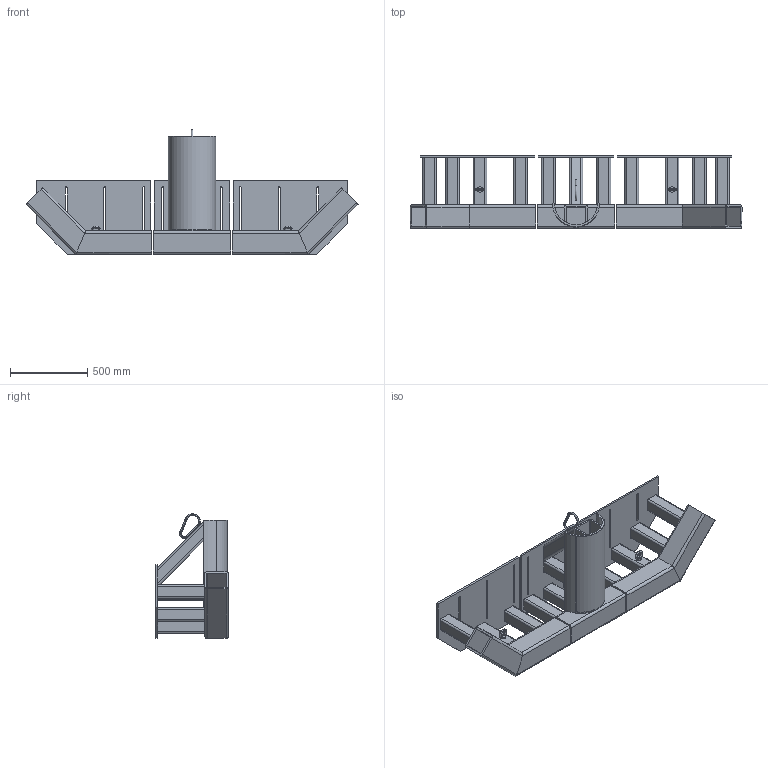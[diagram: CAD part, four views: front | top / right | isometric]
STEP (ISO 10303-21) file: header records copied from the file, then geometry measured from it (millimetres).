
FILE_DESCRIPTION(('CATIA V5 STEP','CAx-IF Rec.Pracs.--- Model Styling and Organization---1.4--- 2014-01-23'),'2;1');
FILE_NAME('P:\Temp\IIHS\ASSEMBLY FOR IIHS, SICE T-IMPACTOR WELDMENTS ABC (V1.0).stp','2023-03-29T14:46:13+00:00',('${USERNAME}'),('Honda R&D Americas, Inc.'),'CATIA Version 5-6 Release 2018 SP4 HF65','CATIA V5 STEP AP214 Edition 3','none');
FILE_SCHEMA(('AUTOMOTIVE_DESIGN { 1 0 10303 214 3 1 1 1 }'));
Length unit declared in the file: millimetre
Products named in the file (17): ASSEMBLY FOR IIHS, SICE T-IMPACTOR WELDMENTS ABC (V1.0); EYEBOLT M16X2.0, ZINC PLATED STEEL, 1,525 LBS (MCMASTER 3107T45); PTFE SHEET, 12X24X0.094 INCH (MCMASTER 9266K23); WELDMENT A, LHS IMPACT FACE (V1.0); TUBE, 3.5X3.5X0.375 INCH ASTM A-500 STEEL, LENGTH=305; TUBE WITH THREADED HOLE, 3.5X3.5X0.375 ASTM A-500, LENGTH=305; BACKING PLATE, A&C WELDMENT, 740X475 MM, 0.5 INCH A36 STEEL (CLASPAN); TUBE, 6X6X0.375 INCH ASTM A-500 STEEL, LENGTH=455; TUBE, 6X6X0.375 INCH ASTM A-500 STEEL, LENGTH=490; WELDMENT B, CENTER IMPACT FACE (V1.0); BACKING PLATE, CENTER WELDMENT, 490X475 MM, 0.5 INCH A36 STEEL (CALSPAN); LINK, PEAR SHAPED FOR LIFTING, 4,100 LBS CAP (MCMASTER 3570T34); TUBE, 3.5X3.5X0.375 INCH ASTM A-500, 2 ANGLE CUTS; TUBE (CUT IN HALF) 12 INCH OD X 0.5 WALL X 24 LENGTH, A513-T5 DOM; TUBE, 6X6X0.375 INCH, LENGTH=610MM; TUBE, 6X6X0.375 INCH, LENGTH =500MM; WELDMENT C, RHS IMPACT FACE (V1.0)
Assembly tree (30 placements, depth 3):
  ASSEMBLY FOR IIHS, SICE T-IMPACTOR WELDMENTS ABC (V1.0)
    EYEBOLT M16X2.0, ZINC PLATED STEEL, 1,525 LBS (MCMASTER 3107T45)  x2
    PTFE SHEET, 12X24X0.094 INCH (MCMASTER 9266K23)
    WELDMENT A, LHS IMPACT FACE (V1.0)
      TUBE, 3.5X3.5X0.375 INCH ASTM A-500 STEEL, LENGTH=305  x3
      TUBE WITH THREADED HOLE, 3.5X3.5X0.375 ASTM A-500, LENGTH=305
      BACKING PLATE, A&C WELDMENT, 740X475 MM, 0.5 INCH A36 STEEL (CLASPAN)
      TUBE, 6X6X0.375 INCH ASTM A-500 STEEL, LENGTH=455
      TUBE, 6X6X0.375 INCH ASTM A-500 STEEL, LENGTH=490
    WELDMENT B, CENTER IMPACT FACE (V1.0)
      TUBE, 3.5X3.5X0.375 INCH ASTM A-500 STEEL, LENGTH=305  x4
      BACKING PLATE, CENTER WELDMENT, 490X475 MM, 0.5 INCH A36 STEEL (CALSPAN)
      LINK, PEAR SHAPED FOR LIFTING, 4,100 LBS CAP (MCMASTER 3570T34)
      TUBE, 3.5X3.5X0.375 INCH ASTM A-500, 2 ANGLE CUTS
      TUBE (CUT IN HALF) 12 INCH OD X 0.5 WALL X 24 LENGTH, A513-T5 DOM
      TUBE, 6X6X0.375 INCH, LENGTH=610MM
      TUBE, 6X6X0.375 INCH, LENGTH =500MM
    WELDMENT C, RHS IMPACT FACE (V1.0)
      TUBE, 3.5X3.5X0.375 INCH ASTM A-500 STEEL, LENGTH=305  x3
      TUBE WITH THREADED HOLE, 3.5X3.5X0.375 ASTM A-500, LENGTH=305
      BACKING PLATE, A&C WELDMENT, 740X475 MM, 0.5 INCH A36 STEEL (CLASPAN)
      TUBE, 6X6X0.375 INCH ASTM A-500 STEEL, LENGTH=455
      TUBE, 6X6X0.375 INCH ASTM A-500 STEEL, LENGTH=490
Bounding box: 2143.47 x 470.1 x 805.77 mm (x, y, z)
Volume: 45208676 mm3; surface area: 8399729.1 mm2
Topology: 27 solids, 27 shells, 1250 faces, 3120 edges, 1920 vertices
Faces by surface type: bspline 748, plane 238, cylinder 230, cone 22, torus 12
Entity records: 18961 total; most frequent: CARTESIAN_POINT 8573, ORIENTED_EDGE 2956, EDGE_CURVE 1478, DIRECTION 1034, VERTEX_POINT 904, EDGE_LOOP 622, ADVANCED_FACE 597, FACE_OUTER_BOUND 597
